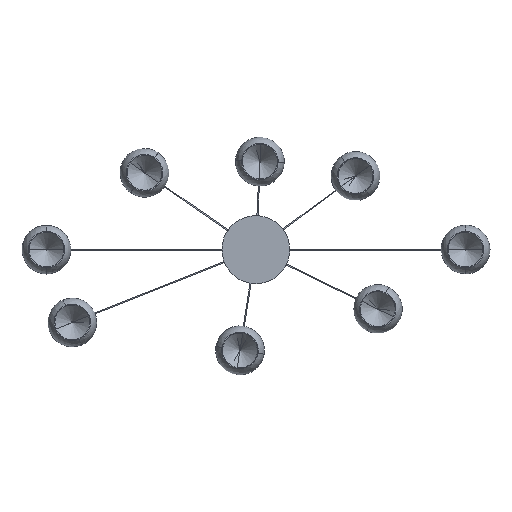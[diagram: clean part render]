
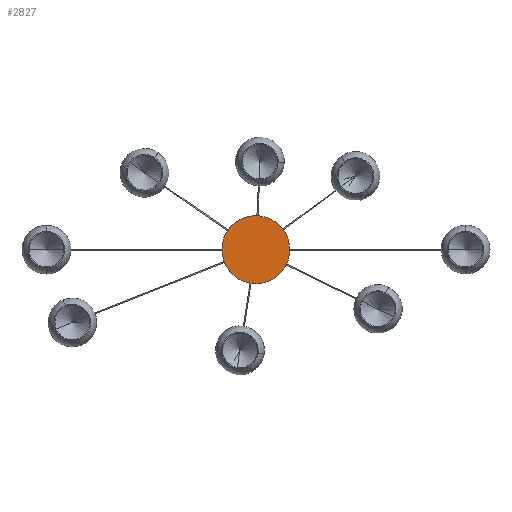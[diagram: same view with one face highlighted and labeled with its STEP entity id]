
A CAD part, front view. The second image highlights one B-rep face of the part: STEP entity #2827.
In plain terms, the highlighted planar face has unit normal (0, -1, 0).
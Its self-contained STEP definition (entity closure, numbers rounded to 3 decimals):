
#201 = DIRECTION ( 'NONE',  ( 0., -1., 0. ) ) ;
#226 = CIRCLE ( 'NONE', #2638, 125. ) ;
#1761 = PLANE ( 'NONE',  #4937 ) ;
#2638 = AXIS2_PLACEMENT_3D ( 'NONE', #3804, #201, #6064 ) ;
#2827 = ADVANCED_FACE ( 'NONE', ( #4711 ), #1761, .T. ) ;
#2905 = CIRCLE ( 'NONE', #3642, 125. ) ;
#2920 = CARTESIAN_POINT ( 'NONE',  ( 0., -17., -125. ) ) ;
#2974 = DIRECTION ( 'NONE',  ( 0., 0., -1. ) ) ;
#3089 = VERTEX_POINT ( 'NONE', #2920 ) ;
#3124 = ORIENTED_EDGE ( 'NONE', *, *, #4305, .T. ) ;
#3199 = CARTESIAN_POINT ( 'NONE',  ( 0., -17., 0. ) ) ;
#3642 = AXIS2_PLACEMENT_3D ( 'NONE', #3199, #5522, #3700 ) ;
#3700 = DIRECTION ( 'NONE',  ( 0., 0., -1. ) ) ;
#3804 = CARTESIAN_POINT ( 'NONE',  ( 0., -17., 0. ) ) ;
#4109 = DIRECTION ( 'NONE',  ( 0., -1., 0. ) ) ;
#4156 = CARTESIAN_POINT ( 'NONE',  ( 125., -17., 0. ) ) ;
#4305 = EDGE_CURVE ( 'NONE', #3089, #6350, #226, .T. ) ;
#4711 = FACE_OUTER_BOUND ( 'NONE', #5380, .T. ) ;
#4937 = AXIS2_PLACEMENT_3D ( 'NONE', #4156, #4109, #2974 ) ;
#5153 = ORIENTED_EDGE ( 'NONE', *, *, #5620, .T. ) ;
#5380 = EDGE_LOOP ( 'NONE', ( #3124, #5153 ) ) ;
#5522 = DIRECTION ( 'NONE',  ( 0., -1., 0. ) ) ;
#5620 = EDGE_CURVE ( 'NONE', #6350, #3089, #2905, .T. ) ;
#6064 = DIRECTION ( 'NONE',  ( 0., 0., -1. ) ) ;
#6318 = CARTESIAN_POINT ( 'NONE',  ( 0., -17., 125. ) ) ;
#6350 = VERTEX_POINT ( 'NONE', #6318 ) ;
